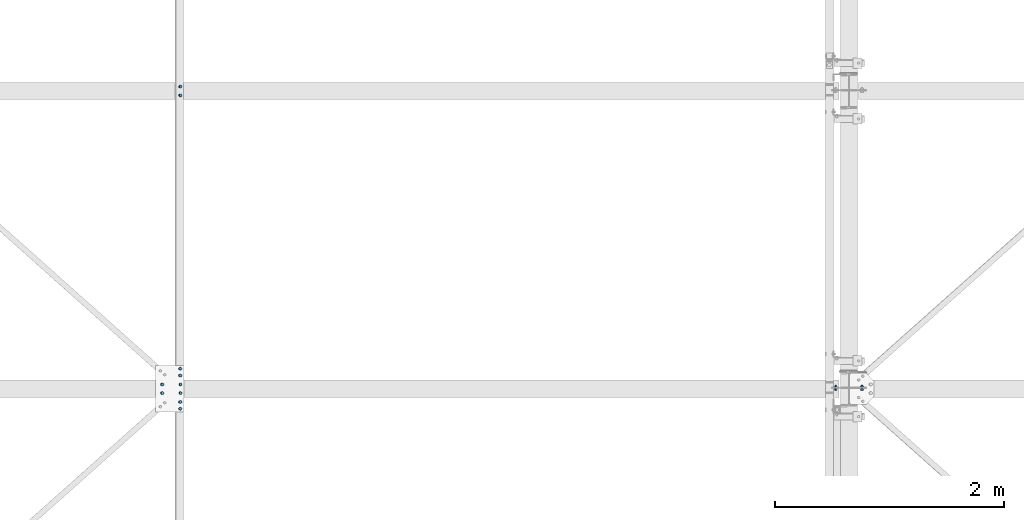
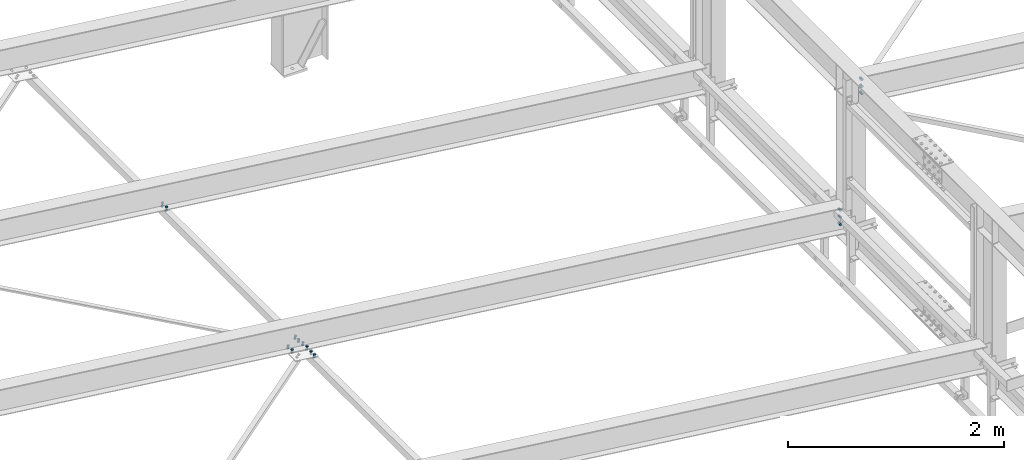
# One storey, part 246 of 3134: 6 mechanical fasteners, 4 elements without a shape of their own.
"""IFC2X3 building model written with IfcOpenShell, lengths in millimetres."""

from ifc_helpers import new_model, si_unit, frame, origin_with_axes, place, context, subcontext, project, spatial, faceted_brep, source, transform, mapped, material, type_object, element, aggregate, save


model = new_model("IFC2X3")

# Units and contexts
model_context = context("Model", 3, precision=1e-05, world=origin_with_axes())
body_context = subcontext(model_context, "Body", "Model", "MODEL_VIEW")
ifc_project = project(units=[si_unit("LENGTHUNIT", "METRE", prefix="MILLI"), si_unit("AREAUNIT", "SQUARE_METRE"), si_unit("VOLUMEUNIT", "CUBIC_METRE"), si_unit("MASSUNIT", "GRAM", prefix="KILO"), si_unit("TIMEUNIT", "SECOND"), si_unit("PLANEANGLEUNIT", "RADIAN"), si_unit("SOLIDANGLEUNIT", "STERADIAN"), si_unit("THERMODYNAMICTEMPERATUREUNIT", "DEGREE_CELSIUS"), si_unit("LUMINOUSINTENSITYUNIT", "LUMEN")], contexts=[model_context])

# Site, building, storey
site_placement = place(None, origin_with_axes())
site = spatial("IfcSite", under=ifc_project, at=site_placement, CompositionType="ELEMENT")
building_placement = place(site_placement, origin_with_axes())
building = spatial("IfcBuilding", under=site, at=building_placement, Name="Undefined", CompositionType="ELEMENT")
storey_placement = place(building_placement, origin_with_axes())
storey = spatial("IfcBuildingStorey", under=building, at=storey_placement, Name="Undefined", CompositionType="ELEMENT", Elevation=0.0)

# Assembly, mechanical fasteners
assembly_1_placement = place(storey_placement, origin_with_axes())
assembly_1 = element("IfcElementAssembly", 1, at=assembly_1_placement, inside=storey, Name="300", AssemblyPlace="NOTDEFINED", PredefinedType="RIGID_FRAME")
ifc_material = material(Name="8.8")
mechanical_fastener_type = type_object("IfcMechanicalFastenerType", Name="Bolt assembly")
shared_shape_1 = source(origin_with_axes(), body_context, "Body", "Brep", [
    faceted_brep([(13.856406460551, -19.199990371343, 0.0), (6.92820323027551, -19.199990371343, 12.0), (-6.92820323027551, -19.199990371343, 12.0), (-13.856406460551, -19.199990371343, 1.69692038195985e-15), (-6.92820323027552, -19.199990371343, -12.0), (6.9282032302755, -19.199990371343, -12.0), (6.9282032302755, -9.19999037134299, -12.0), (-6.92820323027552, -9.19999037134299, -12.0), (-13.856406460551, -9.19999037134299, 1.69692038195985e-15), (-6.92820323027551, -9.19999037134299, 12.0), (6.92820323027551, -9.19999037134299, 12.0), (13.856406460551, -9.19999037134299, 0.0), (8.0, -9.19999037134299, 0.0), (6.92820323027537, -9.19999037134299, 4.00000000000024), (3.99999999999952, -9.19999037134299, 6.92820323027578), (-8.29068785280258e-13, -9.19999037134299, 8.0), (-4.00000000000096, -9.19999037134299, 6.92820323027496), (-6.9282032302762, -9.19999037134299, 3.99999999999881), (-8.0, -9.19999037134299, -1.65813757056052e-12), (-6.92820323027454, -9.19999037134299, -4.00000000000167), (-3.99999999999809, -9.19999037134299, -6.92820323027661), (2.47832457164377e-12, -9.19999037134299, -8.0), (4.00000000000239, -9.19999037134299, -6.92820323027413), (6.92820323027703, -9.19999037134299, -3.99999999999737), (6.92820323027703, 25.800009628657, -3.99999999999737), (4.00000000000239, 25.800009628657, -6.92820323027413), (2.47832457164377e-12, 25.800009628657, -8.0), (-3.99999999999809, 25.800009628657, -6.92820323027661), (-6.92820323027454, 25.800009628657, -4.00000000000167), (-8.0, 25.800009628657, -1.65813757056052e-12), (-6.9282032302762, 25.800009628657, 3.99999999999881), (-4.00000000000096, 25.800009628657, 6.92820323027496), (-8.29068785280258e-13, 25.800009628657, 8.0), (3.99999999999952, 25.800009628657, 6.92820323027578), (6.92820323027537, 25.800009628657, 4.00000000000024), (8.0, 25.800009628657, 0.0), (13.856406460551, 8.00000637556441, 0.0), (6.92820323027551, 8.00000637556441, 12.0), (-6.92820323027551, 8.00000637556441, 12.0), (-13.856406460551, 8.00000637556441, 1.69692038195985e-15), (-6.92820323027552, 8.00000637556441, -12.0), (6.9282032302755, 8.00000637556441, -12.0), (6.9282032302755, 21.0000063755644, -12.0), (-6.92820323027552, 21.0000063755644, -12.0), (-13.856406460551, 21.0000063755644, 1.69692038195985e-15), (-6.92820323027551, 21.0000063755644, 12.0), (6.92820323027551, 21.0000063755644, 12.0), (13.856406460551, 21.0000063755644, 0.0)], [[[0, 1, 2, 3, 4, 5]], [[6, 7, 8, 9, 10, 11]], [[0, 11, 10, 1]], [[1, 10, 9, 2]], [[2, 9, 8, 3]], [[3, 8, 7, 4]], [[4, 7, 6, 5]], [[5, 6, 11, 0]], [[12, 13, 14, 15, 16, 17, 18, 19, 20, 21, 22, 23]], [[24, 25, 26, 27, 28, 29, 30, 31, 32, 33, 34, 35]], [[12, 35, 34, 13]], [[13, 34, 33, 14]], [[14, 33, 32, 15]], [[15, 32, 31, 16]], [[16, 31, 30, 17]], [[17, 30, 29, 18]], [[18, 29, 28, 19]], [[19, 28, 27, 20]], [[20, 27, 26, 21]], [[21, 26, 25, 22]], [[22, 25, 24, 23]], [[23, 24, 35, 12]], [[36, 37, 38, 39, 40, 41]], [[42, 43, 44, 45, 46, 47]], [[36, 47, 46, 37]], [[37, 46, 45, 38]], [[38, 45, 44, 39]], [[39, 44, 43, 40]], [[40, 43, 42, 41]], [[41, 42, 47, 36]]]),
    faceted_brep([(9.0, -0.1, 0.0), (7.79422863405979, -0.1, 4.50000000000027), (4.49999999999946, -0.1, 7.79422863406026), (-9.3270238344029e-13, -0.1, 9.0), (-4.50000000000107, -0.1, 7.79422863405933), (-7.79422863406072, -0.1, 4.49999999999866), (-9.0, -0.1, -1.86540476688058e-12), (-7.79422863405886, -0.1, -4.50000000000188), (-4.49999999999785, -0.1, -7.79422863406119), (2.78811514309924e-12, -0.1, -9.0), (4.50000000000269, -0.1, -7.7942286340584), (7.79422863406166, -0.1, -4.49999999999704), (7.79422863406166, 8.00000000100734, -4.49999999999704), (4.50000000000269, 8.00000000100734, -7.7942286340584), (2.78811514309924e-12, 8.00000000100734, -9.0), (-4.49999999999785, 8.00000000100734, -7.79422863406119), (-7.79422863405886, 8.00000000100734, -4.50000000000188), (-9.0, 8.00000000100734, -1.86540476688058e-12), (-7.79422863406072, 8.00000000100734, 4.49999999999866), (-4.50000000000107, 8.00000000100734, 7.79422863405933), (-9.3270238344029e-13, 8.00000000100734, 9.0), (4.49999999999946, 8.00000000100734, 7.79422863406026), (7.79422863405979, 8.00000000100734, 4.50000000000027), (9.0, 8.00000000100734, 0.0), (9.0, -9.09999037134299, 0.0), (7.79422863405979, -9.09999037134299, 4.50000000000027), (4.49999999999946, -9.09999037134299, 7.79422863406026), (-9.3270238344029e-13, -9.09999037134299, 9.0), (-4.50000000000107, -9.09999037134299, 7.79422863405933), (-7.79422863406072, -9.09999037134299, 4.49999999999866), (-9.0, -9.09999037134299, -1.86540476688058e-12), (-7.79422863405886, -9.09999037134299, -4.50000000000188), (-4.49999999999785, -9.09999037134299, -7.79422863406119), (2.78811514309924e-12, -9.09999037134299, -9.0), (4.50000000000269, -9.09999037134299, -7.7942286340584), (7.79422863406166, -9.09999037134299, -4.49999999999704), (7.79422863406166, 0.100000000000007, -4.49999999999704), (4.50000000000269, 0.100000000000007, -7.7942286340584), (2.78811514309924e-12, 0.100000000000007, -9.0), (-4.49999999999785, 0.100000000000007, -7.79422863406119), (-7.79422863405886, 0.100000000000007, -4.50000000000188), (-9.0, 0.100000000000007, -1.86540476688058e-12), (-7.79422863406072, 0.100000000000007, 4.49999999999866), (-4.50000000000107, 0.100000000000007, 7.79422863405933), (-9.3270238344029e-13, 0.100000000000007, 9.0), (4.49999999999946, 0.100000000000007, 7.79422863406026), (7.79422863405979, 0.100000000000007, 4.50000000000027), (9.0, 0.100000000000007, 0.0)], [[[0, 1, 2, 3, 4, 5, 6, 7, 8, 9, 10, 11]], [[12, 13, 14, 15, 16, 17, 18, 19, 20, 21, 22, 23]], [[0, 23, 22, 1]], [[1, 22, 21, 2]], [[2, 21, 20, 3]], [[3, 20, 19, 4]], [[4, 19, 18, 5]], [[5, 18, 17, 6]], [[6, 17, 16, 7]], [[7, 16, 15, 8]], [[8, 15, 14, 9]], [[9, 14, 13, 10]], [[10, 13, 12, 11]], [[11, 12, 23, 0]], [[24, 25, 26, 27, 28, 29, 30, 31, 32, 33, 34, 35]], [[36, 37, 38, 39, 40, 41, 42, 43, 44, 45, 46, 47]], [[24, 47, 46, 25]], [[25, 46, 45, 26]], [[26, 45, 44, 27]], [[27, 44, 43, 28]], [[28, 43, 42, 29]], [[29, 42, 41, 30]], [[30, 41, 40, 31]], [[31, 40, 39, 32]], [[32, 39, 38, 33]], [[33, 38, 37, 34]], [[34, 37, 36, 35]], [[35, 36, 47, 24]]]),
])
mechanical_fastener_1_placement = place(assembly_1_placement, frame((38283.5751064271, 29812.0, 4816.43281405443), z_axis=(-0.992623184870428, 0.0, 0.121240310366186), x_axis=(0.0, 1.0, 0.0)))
mechanical_fastener_1 = element("IfcMechanicalFastener", 2, at=mechanical_fastener_1_placement, type_object=mechanical_fastener_type, material=ifc_material, Name="Bolt assembly", NominalDiameter=16.0, NominalLength=35.0, context=body_context, shape_type="MappedRepresentation", body=[
    mapped(shared_shape_1, transform((0.0, -5.32963895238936e-10, -79.9999999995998))),
    mapped(shared_shape_1, transform((76.0, -5.32963895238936e-10, -79.9999999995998))),
    mapped(shared_shape_1, transform((0.0, 5.3114490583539e-10, 79.9999999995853))),
    mapped(shared_shape_1, transform((76.0, 5.3114490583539e-10, 79.9999999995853))),
])
shared_shape_2 = source(origin_with_axes(), body_context, "Body", "Brep", [
    faceted_brep([(13.856406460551, -13.0499999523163, 0.0), (6.92820323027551, -13.0499999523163, 12.0), (-6.92820323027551, -13.0499999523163, 12.0), (-13.856406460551, -13.0499999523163, 1.69692038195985e-15), (-6.92820323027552, -13.0499999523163, -12.0), (6.9282032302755, -13.0499999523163, -12.0), (6.9282032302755, -3.04999995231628, -12.0), (-6.92820323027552, -3.04999995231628, -12.0), (-13.856406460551, -3.04999995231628, 1.69692038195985e-15), (-6.92820323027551, -3.04999995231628, 12.0), (6.92820323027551, -3.04999995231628, 12.0), (13.856406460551, -3.04999995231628, 0.0), (8.0, -3.04999995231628, 0.0), (6.92820323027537, -3.04999995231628, 4.00000000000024), (3.99999999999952, -3.04999995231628, 6.92820323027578), (-8.29068785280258e-13, -3.04999995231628, 8.0), (-4.00000000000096, -3.04999995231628, 6.92820323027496), (-6.9282032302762, -3.04999995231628, 3.99999999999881), (-8.0, -3.04999995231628, -1.65813757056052e-12), (-6.92820323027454, -3.04999995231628, -4.00000000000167), (-3.99999999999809, -3.04999995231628, -6.92820323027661), (2.47832457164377e-12, -3.04999995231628, -8.0), (4.00000000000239, -3.04999995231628, -6.92820323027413), (6.92820323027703, -3.04999995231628, -3.99999999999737), (6.92820323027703, 31.9500000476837, -3.99999999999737), (4.00000000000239, 31.9500000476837, -6.92820323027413), (2.47832457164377e-12, 31.9500000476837, -8.0), (-3.99999999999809, 31.9500000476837, -6.92820323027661), (-6.92820323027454, 31.9500000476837, -4.00000000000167), (-8.0, 31.9500000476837, -1.65813757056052e-12), (-6.9282032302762, 31.9500000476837, 3.99999999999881), (-4.00000000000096, 31.9500000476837, 6.92820323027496), (-8.29068785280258e-13, 31.9500000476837, 8.0), (3.99999999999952, 31.9500000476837, 6.92820323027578), (6.92820323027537, 31.9500000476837, 4.00000000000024), (8.0, 31.9500000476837, 0.0), (13.856406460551, 13.0500000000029, 0.0), (6.92820323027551, 13.0500000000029, 12.0), (-6.92820323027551, 13.0500000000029, 12.0), (-13.856406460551, 13.0500000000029, 1.69692038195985e-15), (-6.92820323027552, 13.0500000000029, -12.0), (6.9282032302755, 13.0500000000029, -12.0), (6.9282032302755, 26.0500000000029, -12.0), (-6.92820323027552, 26.0500000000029, -12.0), (-13.856406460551, 26.0500000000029, 1.69692038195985e-15), (-6.92820323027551, 26.0500000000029, 12.0), (6.92820323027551, 26.0500000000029, 12.0), (13.856406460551, 26.0500000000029, 0.0)], [[[0, 1, 2, 3, 4, 5]], [[6, 7, 8, 9, 10, 11]], [[0, 11, 10, 1]], [[1, 10, 9, 2]], [[2, 9, 8, 3]], [[3, 8, 7, 4]], [[4, 7, 6, 5]], [[5, 6, 11, 0]], [[12, 13, 14, 15, 16, 17, 18, 19, 20, 21, 22, 23]], [[24, 25, 26, 27, 28, 29, 30, 31, 32, 33, 34, 35]], [[12, 35, 34, 13]], [[13, 34, 33, 14]], [[14, 33, 32, 15]], [[15, 32, 31, 16]], [[16, 31, 30, 17]], [[17, 30, 29, 18]], [[18, 29, 28, 19]], [[19, 28, 27, 20]], [[20, 27, 26, 21]], [[21, 26, 25, 22]], [[22, 25, 24, 23]], [[23, 24, 35, 12]], [[36, 37, 38, 39, 40, 41]], [[42, 43, 44, 45, 46, 47]], [[36, 47, 46, 37]], [[37, 46, 45, 38]], [[38, 45, 44, 39]], [[39, 44, 43, 40]], [[40, 43, 42, 41]], [[41, 42, 47, 36]]]),
    faceted_brep([(9.0, 2.95000000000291, 0.0), (7.79422863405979, 2.95000000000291, 4.50000000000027), (4.49999999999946, 2.95000000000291, 7.79422863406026), (-9.3270238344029e-13, 2.95000000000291, 9.0), (-4.50000000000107, 2.95000000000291, 7.79422863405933), (-7.79422863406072, 2.95000000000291, 4.49999999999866), (-9.0, 2.95000000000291, -1.86540476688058e-12), (-7.79422863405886, 2.95000000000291, -4.50000000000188), (-4.49999999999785, 2.95000000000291, -7.79422863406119), (2.78811514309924e-12, 2.95000000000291, -9.0), (4.50000000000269, 2.95000000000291, -7.7942286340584), (7.79422863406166, 2.95000000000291, -4.49999999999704), (7.79422863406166, 13.0500000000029, -4.49999999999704), (4.50000000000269, 13.0500000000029, -7.7942286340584), (2.78811514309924e-12, 13.0500000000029, -9.0), (-4.49999999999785, 13.0500000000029, -7.79422863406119), (-7.79422863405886, 13.0500000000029, -4.50000000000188), (-9.0, 13.0500000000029, -1.86540476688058e-12), (-7.79422863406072, 13.0500000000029, 4.49999999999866), (-4.50000000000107, 13.0500000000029, 7.79422863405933), (-9.3270238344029e-13, 13.0500000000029, 9.0), (4.49999999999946, 13.0500000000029, 7.79422863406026), (7.79422863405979, 13.0500000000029, 4.50000000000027), (9.0, 13.0500000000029, 0.0), (9.0, -2.94999995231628, 0.0), (7.79422863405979, -2.94999995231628, 4.50000000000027), (4.49999999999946, -2.94999995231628, 7.79422863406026), (-9.3270238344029e-13, -2.94999995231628, 9.0), (-4.50000000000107, -2.94999995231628, 7.79422863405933), (-7.79422863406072, -2.94999995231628, 4.49999999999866), (-9.0, -2.94999995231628, -1.86540476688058e-12), (-7.79422863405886, -2.94999995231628, -4.50000000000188), (-4.49999999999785, -2.94999995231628, -7.79422863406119), (2.78811514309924e-12, -2.94999995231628, -9.0), (4.50000000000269, -2.94999995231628, -7.7942286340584), (7.79422863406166, -2.94999995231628, -4.49999999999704), (7.79422863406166, 3.14999995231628, -4.49999999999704), (4.50000000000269, 3.14999995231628, -7.7942286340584), (2.78811514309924e-12, 3.14999995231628, -9.0), (-4.49999999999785, 3.14999995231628, -7.79422863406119), (-7.79422863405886, 3.14999995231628, -4.50000000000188), (-9.0, 3.14999995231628, -1.86540476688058e-12), (-7.79422863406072, 3.14999995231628, 4.49999999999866), (-4.50000000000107, 3.14999995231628, 7.79422863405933), (-9.3270238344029e-13, 3.14999995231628, 9.0), (4.49999999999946, 3.14999995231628, 7.79422863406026), (7.79422863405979, 3.14999995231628, 4.50000000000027), (9.0, 3.14999995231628, 0.0)], [[[0, 1, 2, 3, 4, 5, 6, 7, 8, 9, 10, 11]], [[12, 13, 14, 15, 16, 17, 18, 19, 20, 21, 22, 23]], [[0, 23, 22, 1]], [[1, 22, 21, 2]], [[2, 21, 20, 3]], [[3, 20, 19, 4]], [[4, 19, 18, 5]], [[5, 18, 17, 6]], [[6, 17, 16, 7]], [[7, 16, 15, 8]], [[8, 15, 14, 9]], [[9, 14, 13, 10]], [[10, 13, 12, 11]], [[11, 12, 23, 0]], [[24, 25, 26, 27, 28, 29, 30, 31, 32, 33, 34, 35]], [[36, 37, 38, 39, 40, 41, 42, 43, 44, 45, 46, 47]], [[24, 47, 46, 25]], [[25, 46, 45, 26]], [[26, 45, 44, 27]], [[27, 44, 43, 28]], [[28, 43, 42, 29]], [[29, 42, 41, 30]], [[30, 41, 40, 31]], [[31, 40, 39, 32]], [[32, 39, 38, 33]], [[33, 38, 37, 34]], [[34, 37, 36, 35]], [[35, 36, 47, 24]]]),
])
mechanical_fastener_2_placement = place(assembly_1_placement, frame((44085.0, 29850.0, 4337.44269270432), z_axis=(1.0, 0.0, 0.0), x_axis=(0.0, 0.0, -1.0)))
mechanical_fastener_2 = element("IfcMechanicalFastener", 3, at=mechanical_fastener_2_placement, type_object=mechanical_fastener_type, material=ifc_material, Name="Bolt assembly", NominalDiameter=16.0, NominalLength=35.0, context=body_context, shape_type="MappedRepresentation", body=[
    mapped(shared_shape_2, transform((0.0, 0.0, 0.0))),
    mapped(shared_shape_2, transform((80.0, 0.0, 0.0))),
    mapped(shared_shape_2, transform((160.0, 0.0, 0.0))),
])
aggregate(assembly_1, [mechanical_fastener_2, mechanical_fastener_1])

# Assembly, mechanical fastener
assembly_2_placement = place(storey_placement, origin_with_axes())
assembly_2 = element("IfcElementAssembly", 4, at=assembly_2_placement, inside=storey, Name="300", AssemblyPlace="NOTDEFINED", PredefinedType="RIGID_FRAME")
mechanical_fastener_3_placement = place(assembly_2_placement, frame((44315.0, 29850.0, 5735.35014950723), z_axis=(1.0, 0.0, 0.0), x_axis=(0.0, 0.0, -1.0)))
mechanical_fastener_3 = element("IfcMechanicalFastener", 5, at=mechanical_fastener_3_placement, type_object=mechanical_fastener_type, material=ifc_material, Name="Bolt assembly", NominalDiameter=16.0, NominalLength=35.0, context=body_context, shape_type="MappedRepresentation", body=[
    mapped(shared_shape_2, transform((0.0, 0.0, 0.0))),
    mapped(shared_shape_2, transform((80.0, 0.0, 0.0))),
    mapped(shared_shape_2, transform((160.0, 0.0, 0.0))),
])
aggregate(assembly_2, [mechanical_fastener_3])

assembly_3_placement = place(storey_placement, origin_with_axes())
assembly_3 = element("IfcElementAssembly", 6, at=assembly_3_placement, inside=storey, AssemblyPlace="NOTDEFINED", PredefinedType="RIGID_FRAME")
shared_shape_3 = source(origin_with_axes(), body_context, "Body", "Brep", [
    faceted_brep([(13.856406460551, -19.199990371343, 0.0), (6.92820323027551, -19.199990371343, 12.0), (-6.92820323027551, -19.199990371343, 12.0), (-13.856406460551, -19.199990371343, 1.69692038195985e-15), (-6.92820323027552, -19.199990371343, -12.0), (6.9282032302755, -19.199990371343, -12.0), (6.9282032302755, -9.19999037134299, -12.0), (-6.92820323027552, -9.19999037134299, -12.0), (-13.856406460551, -9.19999037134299, 1.69692038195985e-15), (-6.92820323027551, -9.19999037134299, 12.0), (6.92820323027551, -9.19999037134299, 12.0), (13.856406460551, -9.19999037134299, 0.0), (8.0, -9.19999037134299, 0.0), (6.92820323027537, -9.19999037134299, 4.00000000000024), (3.99999999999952, -9.19999037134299, 6.92820323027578), (-8.29068785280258e-13, -9.19999037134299, 8.0), (-4.00000000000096, -9.19999037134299, 6.92820323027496), (-6.9282032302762, -9.19999037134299, 3.99999999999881), (-8.0, -9.19999037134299, -1.65813757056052e-12), (-6.92820323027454, -9.19999037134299, -4.00000000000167), (-3.99999999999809, -9.19999037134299, -6.92820323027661), (2.47832457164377e-12, -9.19999037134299, -8.0), (4.00000000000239, -9.19999037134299, -6.92820323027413), (6.92820323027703, -9.19999037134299, -3.99999999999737), (6.92820323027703, 35.8000002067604, -3.99999999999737), (4.00000000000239, 35.8000002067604, -6.92820323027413), (2.47832457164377e-12, 35.8000002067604, -8.0), (-3.99999999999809, 35.8000002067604, -6.92820323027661), (-6.92820323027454, 35.8000002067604, -4.00000000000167), (-8.0, 35.8000002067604, -1.65813757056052e-12), (-6.9282032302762, 35.8000002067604, 3.99999999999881), (-4.00000000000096, 35.8000002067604, 6.92820323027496), (-8.29068785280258e-13, 35.8000002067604, 8.0), (3.99999999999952, 35.8000002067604, 6.92820323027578), (6.92820323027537, 35.8000002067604, 4.00000000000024), (8.0, 35.8000002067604, 0.0), (13.856406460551, 14.9999995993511, 0.0), (6.92820323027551, 14.9999995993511, 12.0), (-6.92820323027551, 14.9999995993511, 12.0), (-13.856406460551, 14.9999995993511, 1.69692038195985e-15), (-6.92820323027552, 14.9999995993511, -12.0), (6.9282032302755, 14.9999995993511, -12.0), (6.9282032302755, 27.9999995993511, -12.0), (-6.92820323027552, 27.9999995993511, -12.0), (-13.856406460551, 27.9999995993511, 1.69692038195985e-15), (-6.92820323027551, 27.9999995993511, 12.0), (6.92820323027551, 27.9999995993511, 12.0), (13.856406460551, 27.9999995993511, 0.0)], [[[0, 1, 2, 3, 4, 5]], [[6, 7, 8, 9, 10, 11]], [[0, 11, 10, 1]], [[1, 10, 9, 2]], [[2, 9, 8, 3]], [[3, 8, 7, 4]], [[4, 7, 6, 5]], [[5, 6, 11, 0]], [[12, 13, 14, 15, 16, 17, 18, 19, 20, 21, 22, 23]], [[24, 25, 26, 27, 28, 29, 30, 31, 32, 33, 34, 35]], [[12, 35, 34, 13]], [[13, 34, 33, 14]], [[14, 33, 32, 15]], [[15, 32, 31, 16]], [[16, 31, 30, 17]], [[17, 30, 29, 18]], [[18, 29, 28, 19]], [[19, 28, 27, 20]], [[20, 27, 26, 21]], [[21, 26, 25, 22]], [[22, 25, 24, 23]], [[23, 24, 35, 12]], [[36, 37, 38, 39, 40, 41]], [[42, 43, 44, 45, 46, 47]], [[36, 47, 46, 37]], [[37, 46, 45, 38]], [[38, 45, 44, 39]], [[39, 44, 43, 40]], [[40, 43, 42, 41]], [[41, 42, 47, 36]]]),
    faceted_brep([(9.0, -9.09999037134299, 0.0), (7.79422863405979, -9.09999037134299, 4.50000000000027), (4.49999999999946, -9.09999037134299, 7.79422863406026), (-9.3270238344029e-13, -9.09999037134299, 9.0), (-4.50000000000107, -9.09999037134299, 7.79422863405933), (-7.79422863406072, -9.09999037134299, 4.49999999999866), (-9.0, -9.09999037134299, -1.86540476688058e-12), (-7.79422863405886, -9.09999037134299, -4.50000000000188), (-4.49999999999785, -9.09999037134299, -7.79422863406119), (2.78811514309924e-12, -9.09999037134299, -9.0), (4.50000000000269, -9.09999037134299, -7.7942286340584), (7.79422863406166, -9.09999037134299, -4.49999999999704), (7.79422863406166, 0.100000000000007, -4.49999999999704), (4.50000000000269, 0.100000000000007, -7.7942286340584), (2.78811514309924e-12, 0.100000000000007, -9.0), (-4.49999999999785, 0.100000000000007, -7.79422863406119), (-7.79422863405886, 0.100000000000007, -4.50000000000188), (-9.0, 0.100000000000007, -1.86540476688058e-12), (-7.79422863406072, 0.100000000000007, 4.49999999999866), (-4.50000000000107, 0.100000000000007, 7.79422863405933), (-9.3270238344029e-13, 0.100000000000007, 9.0), (4.49999999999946, 0.100000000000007, 7.79422863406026), (7.79422863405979, 0.100000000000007, 4.50000000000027), (9.0, 0.100000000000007, 0.0), (9.0, 7.9, 0.0), (7.79422863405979, 7.9, 4.50000000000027), (4.49999999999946, 7.9, 7.79422863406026), (-9.3270238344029e-13, 7.9, 9.0), (-4.50000000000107, 7.9, 7.79422863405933), (-7.79422863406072, 7.9, 4.49999999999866), (-9.0, 7.9, -1.86540476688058e-12), (-7.79422863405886, 7.9, -4.50000000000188), (-4.49999999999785, 7.9, -7.79422863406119), (2.78811514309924e-12, 7.9, -9.0), (4.50000000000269, 7.9, -7.7942286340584), (7.79422863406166, 7.9, -4.49999999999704), (7.79422863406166, 14.9999995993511, -4.49999999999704), (4.50000000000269, 14.9999995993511, -7.7942286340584), (2.78811514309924e-12, 14.9999995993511, -9.0), (-4.49999999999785, 14.9999995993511, -7.79422863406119), (-7.79422863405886, 14.9999995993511, -4.50000000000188), (-9.0, 14.9999995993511, -1.86540476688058e-12), (-7.79422863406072, 14.9999995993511, 4.49999999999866), (-4.50000000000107, 14.9999995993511, 7.79422863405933), (-9.3270238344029e-13, 14.9999995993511, 9.0), (4.49999999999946, 14.9999995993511, 7.79422863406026), (7.79422863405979, 14.9999995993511, 4.50000000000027), (9.0, 14.9999995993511, 0.0)], [[[0, 1, 2, 3, 4, 5, 6, 7, 8, 9, 10, 11]], [[12, 13, 14, 15, 16, 17, 18, 19, 20, 21, 22, 23]], [[0, 23, 22, 1]], [[1, 22, 21, 2]], [[2, 21, 20, 3]], [[3, 20, 19, 4]], [[4, 19, 18, 5]], [[5, 18, 17, 6]], [[6, 17, 16, 7]], [[7, 16, 15, 8]], [[8, 15, 14, 9]], [[9, 14, 13, 10]], [[10, 13, 12, 11]], [[11, 12, 23, 0]], [[24, 25, 26, 27, 28, 29, 30, 31, 32, 33, 34, 35]], [[36, 37, 38, 39, 40, 41, 42, 43, 44, 45, 46, 47]], [[24, 47, 46, 25]], [[25, 46, 45, 26]], [[26, 45, 44, 27]], [[27, 44, 43, 28]], [[28, 43, 42, 29]], [[29, 42, 41, 30]], [[30, 41, 40, 31]], [[31, 40, 39, 32]], [[32, 39, 38, 33]], [[33, 38, 37, 34]], [[34, 37, 36, 35]], [[35, 36, 47, 24]]]),
])
mechanical_fastener_4_placement = place(assembly_3_placement, frame((38362.9849612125, 32412.0, 4806.73358922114), z_axis=(-0.992623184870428, 0.0, 0.121240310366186), x_axis=(0.0, 1.0, 0.0)))
mechanical_fastener_4 = element("IfcMechanicalFastener", 7, at=mechanical_fastener_4_placement, type_object=mechanical_fastener_type, material=ifc_material, Name="Bolt assembly", NominalDiameter=16.0, NominalLength=45.0, context=body_context, shape_type="MappedRepresentation", body=[
    mapped(shared_shape_3, transform((0.0, 0.0, 0.0))),
    mapped(shared_shape_3, transform((76.0, 0.0, 0.0))),
])
aggregate(assembly_3, [mechanical_fastener_4])

# Assembly, mechanical fasteners
assembly_4_placement = place(storey_placement, origin_with_axes())
assembly_4 = element("IfcElementAssembly", 8, at=assembly_4_placement, inside=storey, Name="PL8", AssemblyPlace="NOTDEFINED", PredefinedType="RIGID_FRAME")
shared_shape_4 = source(origin_with_axes(), body_context, "Body", "Brep", [
    faceted_brep([(13.856406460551, -10.0, 0.0), (6.92820323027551, -10.0, 12.0), (-6.92820323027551, -10.0, 12.0), (-13.856406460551, -10.0, 1.69692038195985e-15), (-6.92820323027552, -10.0, -12.0), (6.9282032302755, -10.0, -12.0), (6.9282032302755, 0.0, -12.0), (-6.92820323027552, 0.0, -12.0), (-13.856406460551, 0.0, 1.69692038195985e-15), (-6.92820323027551, 0.0, 12.0), (6.92820323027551, 0.0, 12.0), (13.856406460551, 0.0, 0.0), (8.0, 0.0, 0.0), (6.92820323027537, 0.0, 4.00000000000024), (3.99999999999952, 0.0, 6.92820323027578), (-8.29068785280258e-13, 0.0, 8.0), (-4.00000000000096, 0.0, 6.92820323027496), (-6.9282032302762, 0.0, 3.99999999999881), (-8.0, 0.0, -1.65813757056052e-12), (-6.92820323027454, 0.0, -4.00000000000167), (-3.99999999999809, 0.0, -6.92820323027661), (2.47832457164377e-12, 0.0, -8.0), (4.00000000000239, 0.0, -6.92820323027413), (6.92820323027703, 0.0, -3.99999999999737), (6.92820323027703, 35.0000000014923, -3.99999999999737), (4.00000000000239, 35.0000000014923, -6.92820323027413), (2.47832457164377e-12, 35.0000000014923, -8.0), (-3.99999999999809, 35.0000000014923, -6.92820323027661), (-6.92820323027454, 35.0000000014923, -4.00000000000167), (-8.0, 35.0000000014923, -1.65813757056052e-12), (-6.9282032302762, 35.0000000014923, 3.99999999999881), (-4.00000000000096, 35.0000000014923, 6.92820323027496), (-8.29068785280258e-13, 35.0000000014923, 8.0), (3.99999999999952, 35.0000000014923, 6.92820323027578), (6.92820323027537, 35.0000000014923, 4.00000000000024), (8.0, 35.0000000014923, 0.0), (13.856406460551, 14.9999995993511, 0.0), (6.92820323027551, 14.9999995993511, 12.0), (-6.92820323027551, 14.9999995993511, 12.0), (-13.856406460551, 14.9999995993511, 1.69692038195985e-15), (-6.92820323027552, 14.9999995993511, -12.0), (6.9282032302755, 14.9999995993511, -12.0), (6.9282032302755, 27.9999995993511, -12.0), (-6.92820323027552, 27.9999995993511, -12.0), (-13.856406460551, 27.9999995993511, 1.69692038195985e-15), (-6.92820323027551, 27.9999995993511, 12.0), (6.92820323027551, 27.9999995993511, 12.0), (13.856406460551, 27.9999995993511, 0.0)], [[[0, 1, 2, 3, 4, 5]], [[6, 7, 8, 9, 10, 11]], [[0, 11, 10, 1]], [[1, 10, 9, 2]], [[2, 9, 8, 3]], [[3, 8, 7, 4]], [[4, 7, 6, 5]], [[5, 6, 11, 0]], [[12, 13, 14, 15, 16, 17, 18, 19, 20, 21, 22, 23]], [[24, 25, 26, 27, 28, 29, 30, 31, 32, 33, 34, 35]], [[12, 35, 34, 13]], [[13, 34, 33, 14]], [[14, 33, 32, 15]], [[15, 32, 31, 16]], [[16, 31, 30, 17]], [[17, 30, 29, 18]], [[18, 29, 28, 19]], [[19, 28, 27, 20]], [[20, 27, 26, 21]], [[21, 26, 25, 22]], [[22, 25, 24, 23]], [[23, 24, 35, 12]], [[36, 37, 38, 39, 40, 41]], [[42, 43, 44, 45, 46, 47]], [[36, 47, 46, 37]], [[37, 46, 45, 38]], [[38, 45, 44, 39]], [[39, 44, 43, 40]], [[40, 43, 42, 41]], [[41, 42, 47, 36]]]),
    faceted_brep([(9.0, 7.9, 0.0), (7.79422863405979, 7.9, 4.50000000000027), (4.49999999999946, 7.9, 7.79422863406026), (-9.3270238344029e-13, 7.9, 9.0), (-4.50000000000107, 7.9, 7.79422863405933), (-7.79422863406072, 7.9, 4.49999999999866), (-9.0, 7.9, -1.86540476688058e-12), (-7.79422863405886, 7.9, -4.50000000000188), (-4.49999999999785, 7.9, -7.79422863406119), (2.78811514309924e-12, 7.9, -9.0), (4.50000000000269, 7.9, -7.7942286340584), (7.79422863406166, 7.9, -4.49999999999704), (7.79422863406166, 14.9999995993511, -4.49999999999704), (4.50000000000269, 14.9999995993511, -7.7942286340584), (2.78811514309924e-12, 14.9999995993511, -9.0), (-4.49999999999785, 14.9999995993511, -7.79422863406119), (-7.79422863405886, 14.9999995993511, -4.50000000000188), (-9.0, 14.9999995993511, -1.86540476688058e-12), (-7.79422863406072, 14.9999995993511, 4.49999999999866), (-4.50000000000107, 14.9999995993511, 7.79422863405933), (-9.3270238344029e-13, 14.9999995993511, 9.0), (4.49999999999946, 14.9999995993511, 7.79422863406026), (7.79422863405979, 14.9999995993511, 4.50000000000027), (9.0, 14.9999995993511, 0.0), (9.0, 0.100000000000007, 0.0), (7.79422863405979, 0.100000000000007, 4.50000000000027), (4.49999999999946, 0.100000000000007, 7.79422863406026), (-9.3270238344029e-13, 0.100000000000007, 9.0), (-4.50000000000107, 0.100000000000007, 7.79422863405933), (-7.79422863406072, 0.100000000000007, 4.49999999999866), (-9.0, 0.100000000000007, -1.86540476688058e-12), (-7.79422863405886, 0.100000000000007, -4.50000000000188), (-4.49999999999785, 0.100000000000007, -7.79422863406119), (2.78811514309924e-12, 0.100000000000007, -9.0), (4.50000000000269, 0.100000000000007, -7.7942286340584), (7.79422863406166, 0.100000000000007, -4.49999999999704), (7.79422863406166, 8.1, -4.49999999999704), (4.50000000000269, 8.1, -7.7942286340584), (2.78811514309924e-12, 8.1, -9.0), (-4.49999999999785, 8.1, -7.79422863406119), (-7.79422863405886, 8.1, -4.50000000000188), (-9.0, 8.1, -1.86540476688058e-12), (-7.79422863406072, 8.1, 4.49999999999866), (-4.50000000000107, 8.1, 7.79422863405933), (-9.3270238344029e-13, 8.1, 9.0), (4.49999999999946, 8.1, 7.79422863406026), (7.79422863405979, 8.1, 4.50000000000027), (9.0, 8.1, 0.0)], [[[0, 1, 2, 3, 4, 5, 6, 7, 8, 9, 10, 11]], [[12, 13, 14, 15, 16, 17, 18, 19, 20, 21, 22, 23]], [[0, 23, 22, 1]], [[1, 22, 21, 2]], [[2, 21, 20, 3]], [[3, 20, 19, 4]], [[4, 19, 18, 5]], [[5, 18, 17, 6]], [[6, 17, 16, 7]], [[7, 16, 15, 8]], [[8, 15, 14, 9]], [[9, 14, 13, 10]], [[10, 13, 12, 11]], [[11, 12, 23, 0]], [[24, 25, 26, 27, 28, 29, 30, 31, 32, 33, 34, 35]], [[36, 37, 38, 39, 40, 41, 42, 43, 44, 45, 46, 47]], [[24, 47, 46, 25]], [[25, 46, 45, 26]], [[26, 45, 44, 27]], [[27, 44, 43, 28]], [[28, 43, 42, 29]], [[29, 42, 41, 30]], [[30, 41, 40, 31]], [[31, 40, 39, 32]], [[32, 39, 38, 33]], [[33, 38, 37, 34]], [[34, 37, 36, 35]], [[35, 36, 47, 24]]]),
])
mechanical_fastener_5_placement = place(assembly_4_placement, frame((38362.9849612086, 29735.0, 4806.73358922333), z_axis=(0.992623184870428, 0.0, -0.121240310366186), x_axis=(0.0, -1.0, 0.0)))
mechanical_fastener_5 = element("IfcMechanicalFastener", 9, at=mechanical_fastener_5_placement, type_object=mechanical_fastener_type, material=ifc_material, Name="Bolt assembly", NominalDiameter=16.0, NominalLength=35.0, context=body_context, shape_type="MappedRepresentation", body=[
    mapped(shared_shape_4, transform((0.0, 0.0, 0.0))),
    mapped(shared_shape_4, transform((59.9999999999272, 0.0, 5.40239852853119e-10))),
])
mechanical_fastener_6_placement = place(assembly_4_placement, frame((38362.9849612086, 30025.0, 4806.73358922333), z_axis=(0.992623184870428, 0.0, -0.121240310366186), x_axis=(0.0, -1.0, 0.0)))
mechanical_fastener_6 = element("IfcMechanicalFastener", 10, at=mechanical_fastener_6_placement, type_object=mechanical_fastener_type, material=ifc_material, Name="Bolt assembly", NominalDiameter=16.0, NominalLength=35.0, context=body_context, shape_type="MappedRepresentation", body=[
    mapped(shared_shape_4, transform((0.0, 0.0, 0.0))),
    mapped(shared_shape_4, transform((59.9999999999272, 0.0, 5.40239852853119e-10))),
])
aggregate(assembly_4, [mechanical_fastener_5, mechanical_fastener_6])

save(model, "model.ifc")
